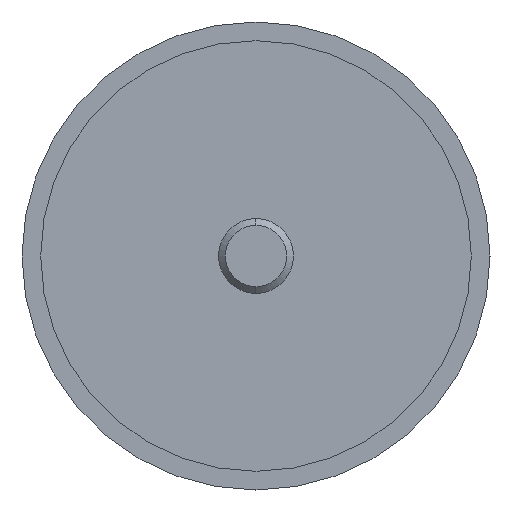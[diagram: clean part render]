
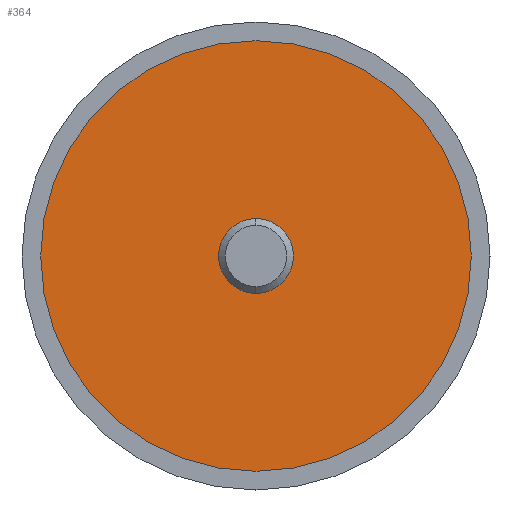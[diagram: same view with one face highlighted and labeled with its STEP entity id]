
A CAD part, left-side view. The second image highlights one B-rep face of the part: STEP entity #364.
In plain terms, the highlighted planar face has unit normal (-1, 0, 0).
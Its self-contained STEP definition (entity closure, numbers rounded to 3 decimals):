
#17 = AXIS2_PLACEMENT_3D ( 'NONE', #467, #355, #211 ) ;
#24 = ORIENTED_EDGE ( 'NONE', *, *, #581, .F. ) ;
#30 = CARTESIAN_POINT ( 'NONE',  ( -19.99, 0., -34.5 ) ) ;
#48 = CARTESIAN_POINT ( 'NONE',  ( -19.99, 0., -6. ) ) ;
#61 = EDGE_LOOP ( 'NONE', ( #108, #24 ) ) ;
#74 = DIRECTION ( 'NONE',  ( 1., 0., 0. ) ) ;
#100 = AXIS2_PLACEMENT_3D ( 'NONE', #519, #558, #165 ) ;
#108 = ORIENTED_EDGE ( 'NONE', *, *, #148, .F. ) ;
#111 = CIRCLE ( 'NONE', #215, 34.5 ) ;
#112 = CARTESIAN_POINT ( 'NONE',  ( -19.99, 0., 0. ) ) ;
#121 = PLANE ( 'NONE',  #611 ) ;
#148 = EDGE_CURVE ( 'NONE', #481, #432, #164, .T. ) ;
#152 = AXIS2_PLACEMENT_3D ( 'NONE', #112, #162, #571 ) ;
#162 = DIRECTION ( 'NONE',  ( -1., 0., 0. ) ) ;
#164 = CIRCLE ( 'NONE', #152, 6. ) ;
#165 = DIRECTION ( 'NONE',  ( 0., 0., 1. ) ) ;
#167 = VERTEX_POINT ( 'NONE', #565 ) ;
#205 = CARTESIAN_POINT ( 'NONE',  ( -19.99, 0., 6. ) ) ;
#211 = DIRECTION ( 'NONE',  ( 0., 0., -1. ) ) ;
#215 = AXIS2_PLACEMENT_3D ( 'NONE', #291, #340, #490 ) ;
#230 = FACE_OUTER_BOUND ( 'NONE', #538, .T. ) ;
#250 = ORIENTED_EDGE ( 'NONE', *, *, #522, .T. ) ;
#274 = DIRECTION ( 'NONE',  ( 0., 0., -1. ) ) ;
#291 = CARTESIAN_POINT ( 'NONE',  ( -19.99, 0., 0. ) ) ;
#305 = CIRCLE ( 'NONE', #17, 6. ) ;
#323 = ORIENTED_EDGE ( 'NONE', *, *, #406, .T. ) ;
#340 = DIRECTION ( 'NONE',  ( -1., 0., 0. ) ) ;
#353 = VERTEX_POINT ( 'NONE', #30 ) ;
#355 = DIRECTION ( 'NONE',  ( -1., 0., 0. ) ) ;
#364 = ADVANCED_FACE ( 'NONE', ( #230, #655 ), #121, .F. ) ;
#389 = CIRCLE ( 'NONE', #100, 34.5 ) ;
#406 = EDGE_CURVE ( 'NONE', #353, #167, #111, .T. ) ;
#432 = VERTEX_POINT ( 'NONE', #48 ) ;
#467 = CARTESIAN_POINT ( 'NONE',  ( -19.99, 0., 0. ) ) ;
#481 = VERTEX_POINT ( 'NONE', #205 ) ;
#487 = CARTESIAN_POINT ( 'NONE',  ( -19.99, 34.5, 0. ) ) ;
#490 = DIRECTION ( 'NONE',  ( 0., 0., 1. ) ) ;
#519 = CARTESIAN_POINT ( 'NONE',  ( -19.99, 0., 0. ) ) ;
#522 = EDGE_CURVE ( 'NONE', #167, #353, #389, .T. ) ;
#538 = EDGE_LOOP ( 'NONE', ( #250, #323 ) ) ;
#558 = DIRECTION ( 'NONE',  ( -1., 0., 0. ) ) ;
#565 = CARTESIAN_POINT ( 'NONE',  ( -19.99, 0., 34.5 ) ) ;
#571 = DIRECTION ( 'NONE',  ( 0., 0., -1. ) ) ;
#581 = EDGE_CURVE ( 'NONE', #432, #481, #305, .T. ) ;
#611 = AXIS2_PLACEMENT_3D ( 'NONE', #487, #74, #274 ) ;
#655 = FACE_BOUND ( 'NONE', #61, .T. ) ;
